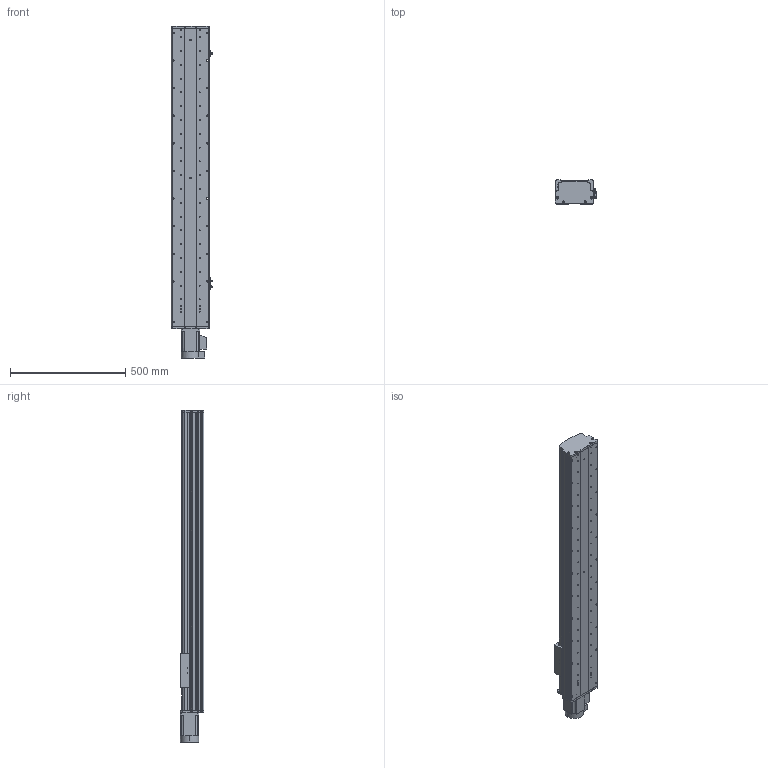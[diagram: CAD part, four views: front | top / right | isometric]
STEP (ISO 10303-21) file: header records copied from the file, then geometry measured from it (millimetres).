
FILE_DESCRIPTION (( 'STEP AP214' ), '1' );
FILE_NAME ('KSD165S-S1000-MN-CM.STEP', '2017-08-07T08:20:17', ( '微软用户' ), ( '微软中国' ), 'SwSTEP 2.0', 'SolidWorks 2014', '' );
FILE_SCHEMA (( 'AUTOMOTIVE_DESIGN' ));
Length unit declared in the file: millimetre
Products named in the file (12): KSD165模组-防尘盖1-1000行程-直连不带电机座; KSD165模组底板-1000行程-直连不带电机座; 拸秶雄ん750W侜督萇儂; KSD165模组-直连不带电机座电机连接板; KSD165耀郪-佪裝-滅袉菜-3 -; C44ㄜ1912WP; 覜茼え68遵圉猾敕; U倰嫖萇假蚾璃; U倰嫖萇EEㄜSX672; KSD165耀郪-綴傷啣1; KSD165模组-丝杆滑动座-最新版; KSD165S-S1000-MN-CM
Assembly tree (15 placements, depth 2):
  KSD165S-S1000-MN-CM
    KSD165模组-丝杆滑动座-最新版
    KSD165耀郪-綴傷啣1
    U倰嫖萇EEㄜSX672  x3
    U倰嫖萇假蚾璃  x3
    覜茼え68遵圉猾敕
    C44ㄜ1912WP
    KSD165耀郪-佪裝-滅袉菜-3 -
    KSD165模组-直连不带电机座电机连接板
    拸秶雄ん750W侜督萇儂
    KSD165模组底板-1000行程-直连不带电机座
    KSD165模组-防尘盖1-1000行程-直连不带电机座
Bounding box: 178.7 x 104 x 1443 mm (x, y, z)
Volume: 7868054.1 mm3; surface area: 1749690.2 mm2
Topology: 16 solids, 16 shells, 1259 faces, 3532 edges, 2293 vertices
Faces by surface type: cylinder 683, plane 499, cone 77
Entity records: 40247 total; most frequent: CARTESIAN_POINT 8955, DIRECTION 5973, ORIENTED_EDGE 5744, EDGE_CURVE 2872, AXIS2_PLACEMENT_3D 2255, VERTEX_POINT 1885, VECTOR 1463, LINE 1463
